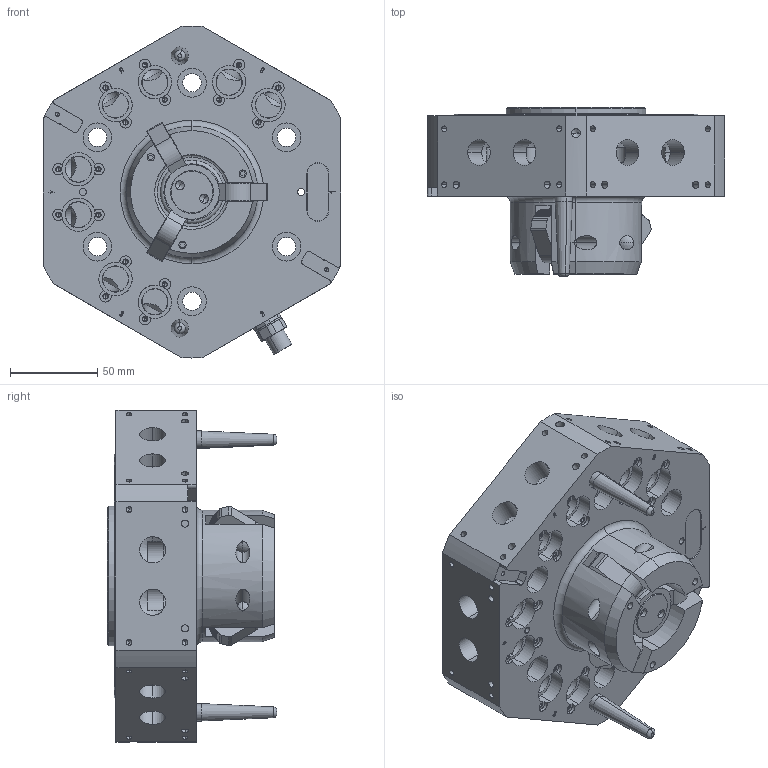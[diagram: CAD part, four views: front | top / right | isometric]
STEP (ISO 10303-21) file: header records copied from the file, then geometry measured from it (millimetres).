
FILE_DESCRIPTION (( 'STEP AP214' ), '1' );
FILE_NAME ('1800870A REV00.STEP', '2019-07-15T18:39:14', ( '' ), ( '' ), 'SwSTEP 2.0', 'SolidWorks 2019', '' );
FILE_SCHEMA (( 'AUTOMOTIVE_DESIGN' ));
Length unit declared in the file: millimetre
Products named in the file (29): 48414; 1600-P57N; 0104-B64N; 97501-P1084; 0201-P78N; 48016_48016; 1600-C05N; 1700035A; 48008; 1800870A REV00; 49185; 0104-B63N; 0701-P16N; 0104-C62N; 0104-B59N; 1601-D29A; 48427; 1600-C07N; 97505-P1096; 1507-P01N; 0109-P32N; 1600-C04N; 1600-E03N; 48012; 49537; 0701-P17N; 0107-C47N; 0104-B71N; 1700037M
Assembly tree (49 placements, depth 3):
  1800870A REV00
    1601-D29A
      1600-E03N
      1600-C04N
      1600-C05N
      0104-B71N  x2
      0701-P16N
      48427  x2
      0701-P17N
      0109-P32N
      0104-B59N  x3
      0107-C47N  x3
      0104-C62N
      0104-B64N
      0104-B63N
      49185  x2
      0201-P78N
      48016_48016  x6
      49537  x3
    1700035A
      1600-C07N
      1700037M
      1507-P01N  x2
      48414  x2
      48012  x4
      48008  x2
      97501-P1084  x2
      97505-P1096
    1600-P57N
Bounding box: 170 x 97 x 190 mm (x, y, z)
Volume: 1077541.9 mm3; surface area: 251734.3 mm2
Topology: 47 solids, 47 shells, 2162 faces, 5327 edges, 3356 vertices
Faces by surface type: plane 850, cylinder 727, cone 302, bspline 197, torus 70, sphere 16
Entity records: 73589 total; most frequent: CARTESIAN_POINT 29202, ORIENTED_EDGE 8590, DIRECTION 8447, EDGE_CURVE 4295, AXIS2_PLACEMENT_3D 3141, VERTEX_POINT 2779, LINE 2165, VECTOR 2165
